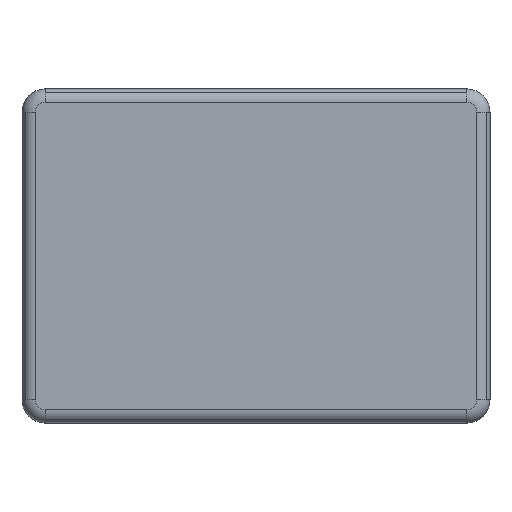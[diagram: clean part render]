
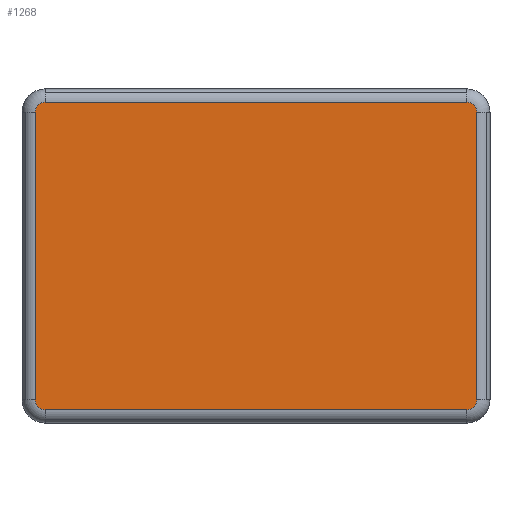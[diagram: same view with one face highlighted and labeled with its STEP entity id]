
A CAD part, front view. The second image highlights one B-rep face of the part: STEP entity #1268.
In plain terms, the highlighted planar face has unit normal (0, -1, 0).
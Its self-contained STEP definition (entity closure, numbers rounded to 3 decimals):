
#1268=ADVANCED_FACE('',(#3436),#3437,.F.);
#3436=FACE_OUTER_BOUND('',#5655,.T.);
#3437=PLANE('',#5656);
#5655=EDGE_LOOP('',(#15032,#15033,#15034,#15035,#15036,#15037,#15038,#15039));
#5656=AXIS2_PLACEMENT_3D('',#15040,#15041,#15042);
#15032=ORIENTED_EDGE('',*,*,#18509,.F.);
#15033=ORIENTED_EDGE('',*,*,#18515,.F.);
#15034=ORIENTED_EDGE('',*,*,#18505,.F.);
#15035=ORIENTED_EDGE('',*,*,#18520,.F.);
#15036=ORIENTED_EDGE('',*,*,#18497,.F.);
#15037=ORIENTED_EDGE('',*,*,#18529,.F.);
#15038=ORIENTED_EDGE('',*,*,#18501,.F.);
#15039=ORIENTED_EDGE('',*,*,#18524,.F.);
#15040=CARTESIAN_POINT('',(0.,-5.7,0.));
#15041=DIRECTION('',(0.,1.0,0.));
#15042=DIRECTION('',(0.0,0.,1.0));
#18497=EDGE_CURVE('',#23711,#23713,#23714,.T.);
#18501=EDGE_CURVE('',#23719,#23721,#23722,.T.);
#18505=EDGE_CURVE('',#23727,#23729,#23730,.T.);
#18509=EDGE_CURVE('',#23735,#23737,#23738,.T.);
#18515=EDGE_CURVE('',#23729,#23735,#23745,.T.);
#18520=EDGE_CURVE('',#23713,#23727,#23751,.T.);
#18524=EDGE_CURVE('',#23737,#23719,#23756,.T.);
#18529=EDGE_CURVE('',#23721,#23711,#23762,.T.);
#23711=VERTEX_POINT('',#32008);
#23713=VERTEX_POINT('',#32010);
#23714=LINE('',#32011,#32012);
#23719=VERTEX_POINT('',#32018);
#23721=VERTEX_POINT('',#32020);
#23722=LINE('',#32021,#32022);
#23727=VERTEX_POINT('',#32028);
#23729=VERTEX_POINT('',#32030);
#23730=LINE('',#32031,#32032);
#23735=VERTEX_POINT('',#32038);
#23737=VERTEX_POINT('',#32040);
#23738=LINE('',#32041,#32042);
#23745=CIRCLE('',#32050,0.06);
#23751=CIRCLE('',#32057,0.06);
#23756=CIRCLE('',#32062,0.06);
#23762=CIRCLE('',#32069,0.06);
#32008=CARTESIAN_POINT('',(-1.26,-5.7,0.92));
#32010=CARTESIAN_POINT('',(1.26,-5.7,0.92));
#32011=CARTESIAN_POINT('',(-0.63,-5.7,0.92));
#32012=VECTOR('',#35396,1.0);
#32018=CARTESIAN_POINT('',(-1.32,-5.7,-0.86));
#32020=CARTESIAN_POINT('',(-1.32,-5.7,0.86));
#32021=CARTESIAN_POINT('',(-1.32,-5.7,-0.43));
#32022=VECTOR('',#35404,1.0);
#32028=CARTESIAN_POINT('',(1.32,-5.7,0.86));
#32030=CARTESIAN_POINT('',(1.32,-5.7,-0.86));
#32031=CARTESIAN_POINT('',(1.32,-5.7,0.43));
#32032=VECTOR('',#35412,1.0);
#32038=CARTESIAN_POINT('',(1.26,-5.7,-0.92));
#32040=CARTESIAN_POINT('',(-1.26,-5.7,-0.92));
#32041=CARTESIAN_POINT('',(0.63,-5.7,-0.92));
#32042=VECTOR('',#35420,1.0);
#32050=AXIS2_PLACEMENT_3D('',#35434,#35435,#35436);
#32057=AXIS2_PLACEMENT_3D('',#35447,#35448,#35449);
#32062=AXIS2_PLACEMENT_3D('',#35459,#35460,#35461);
#32069=AXIS2_PLACEMENT_3D('',#35472,#35473,#35474);
#35396=DIRECTION('',(1.0,0.,0.0));
#35404=DIRECTION('',(0.0,0.,1.0));
#35412=DIRECTION('',(0.0,0.,-1.0));
#35420=DIRECTION('',(-1.0,0.,0.0));
#35434=CARTESIAN_POINT('',(1.26,-5.7,-0.86));
#35435=DIRECTION('',(0.,1.0,0.));
#35436=DIRECTION('',(0.707,0.,-0.707));
#35447=CARTESIAN_POINT('',(1.26,-5.7,0.86));
#35448=DIRECTION('',(0.,1.0,0.));
#35449=DIRECTION('',(0.707,0.,0.707));
#35459=CARTESIAN_POINT('',(-1.26,-5.7,-0.86));
#35460=DIRECTION('',(0.,1.0,0.));
#35461=DIRECTION('',(-0.707,0.,-0.707));
#35472=CARTESIAN_POINT('',(-1.26,-5.7,0.86));
#35473=DIRECTION('',(0.,1.0,0.));
#35474=DIRECTION('',(-0.707,0.,0.707));
